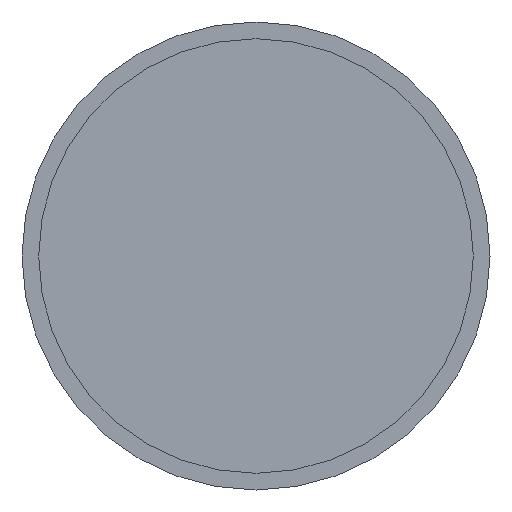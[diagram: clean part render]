
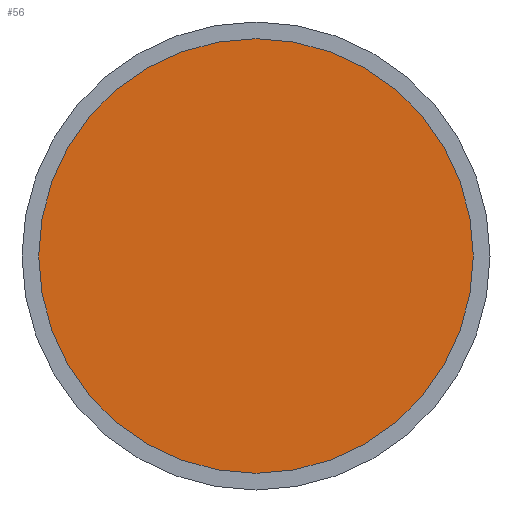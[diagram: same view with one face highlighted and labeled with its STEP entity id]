
A CAD part, front view. The second image highlights one B-rep face of the part: STEP entity #56.
In plain terms, the highlighted planar face has unit normal (0, -1, 0).
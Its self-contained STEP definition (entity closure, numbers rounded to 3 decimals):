
#56=ADVANCED_FACE('',(#93),#95,.T.);
#93=FACE_BOUND('',#94,.T.);
#94=EDGE_LOOP('',(#204));
#95=PLANE('',#96);
#96=AXIS2_PLACEMENT_3D('',#97,#98,#99);
#97=CARTESIAN_POINT('',(0.,-69.,0.));
#98=DIRECTION('',(0.,-1.,0.));
#99=DIRECTION('',(0.,0.,-1.));
#204=ORIENTED_EDGE('',*,*,#229,.T.);
#229=EDGE_CURVE('',#244,#244,#245,.T.);
#244=VERTEX_POINT('',#274);
#245=CIRCLE('',#275,19.5);
#274=CARTESIAN_POINT('',(0.,-69.,19.5));
#275=AXIS2_PLACEMENT_3D('',#276,#277,#278);
#276=CARTESIAN_POINT('',(0.,-69.,0.));
#277=DIRECTION('',(0.,-1.,0.));
#278=DIRECTION('',(0.,0.,1.));
